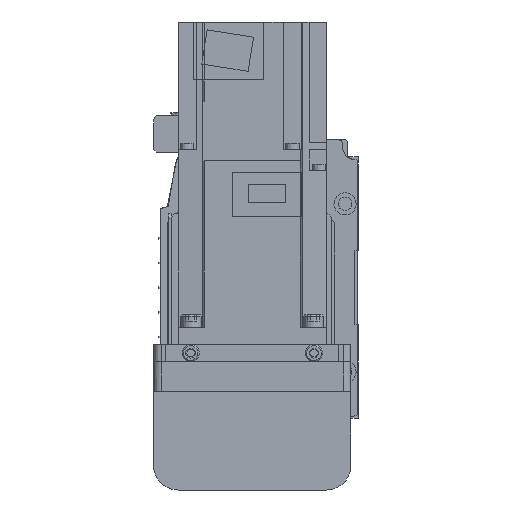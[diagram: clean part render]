
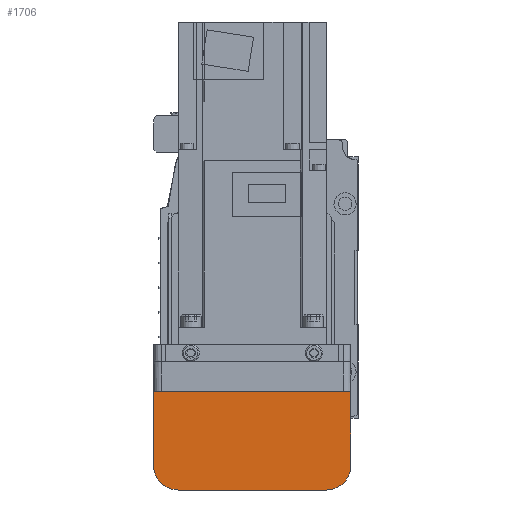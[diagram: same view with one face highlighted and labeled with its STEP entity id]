
A CAD part, left-side view. The second image highlights one B-rep face of the part: STEP entity #1706.
In plain terms, the highlighted planar face has unit normal (-1, 0, 0).
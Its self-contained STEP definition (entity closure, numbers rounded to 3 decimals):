
#1706 = ADVANCED_FACE( '', ( #3845 ), #3846, .F. );
#3845 = FACE_OUTER_BOUND( '', #6429, .T. );
#3846 = PLANE( '', #6430 );
#6429 = EDGE_LOOP( '', ( #11027, #11028, #11029, #11030, #11031, #11032 ) );
#6430 = AXIS2_PLACEMENT_3D( '', #11033, #11034, #11035 );
#11027 = ORIENTED_EDGE( '', *, *, #16109, .F. );
#11028 = ORIENTED_EDGE( '', *, *, #16110, .F. );
#11029 = ORIENTED_EDGE( '', *, *, #15699, .F. );
#11030 = ORIENTED_EDGE( '', *, *, #16111, .F. );
#11031 = ORIENTED_EDGE( '', *, *, #16112, .F. );
#11032 = ORIENTED_EDGE( '', *, *, #16113, .F. );
#11033 = CARTESIAN_POINT( '', ( -192., 37., 7. ) );
#11034 = DIRECTION( '', ( 1., 0., 0. ) );
#11035 = DIRECTION( '', ( 0., 0., -1. ) );
#15699 = EDGE_CURVE( '', #19151, #19153, #19154, .T. );
#16109 = EDGE_CURVE( '', #17194, #18901, #19748, .T. );
#16110 = EDGE_CURVE( '', #19153, #17194, #19749, .T. );
#16111 = EDGE_CURVE( '', #19750, #19151, #19751, .T. );
#16112 = EDGE_CURVE( '', #19752, #19750, #19753, .T. );
#16113 = EDGE_CURVE( '', #18901, #19752, #19754, .T. );
#17194 = VERTEX_POINT( '', #21073 );
#18901 = VERTEX_POINT( '', #23330 );
#19151 = VERTEX_POINT( '', #23656 );
#19153 = VERTEX_POINT( '', #23659 );
#19154 = CIRCLE( '', #23660, 10. );
#19748 = LINE( '', #24457, #24458 );
#19749 = LINE( '', #24459, #24460 );
#19750 = VERTEX_POINT( '', #24461 );
#19751 = LINE( '', #24462, #24463 );
#19752 = VERTEX_POINT( '', #24464 );
#19753 = CIRCLE( '', #24465, 10. );
#19754 = LINE( '', #24466, #24467 );
#21073 = CARTESIAN_POINT( '', ( -192., 40., -12.1 ) );
#23330 = CARTESIAN_POINT( '', ( -192., -40., -12.1 ) );
#23656 = CARTESIAN_POINT( '', ( -192., 30., -52. ) );
#23659 = CARTESIAN_POINT( '', ( -192., 40., -42. ) );
#23660 = AXIS2_PLACEMENT_3D( '', #27547, #27548, #27549 );
#24457 = CARTESIAN_POINT( '', ( -192., 50., -12.1 ) );
#24458 = VECTOR( '', #28032, 1000. );
#24459 = CARTESIAN_POINT( '', ( -192., 40., -42. ) );
#24460 = VECTOR( '', #28033, 1000. );
#24461 = CARTESIAN_POINT( '', ( -192., -30., -52. ) );
#24462 = CARTESIAN_POINT( '', ( -192., -30., -52. ) );
#24463 = VECTOR( '', #28034, 1000. );
#24464 = CARTESIAN_POINT( '', ( -192., -40., -42. ) );
#24465 = AXIS2_PLACEMENT_3D( '', #28035, #28036, #28037 );
#24466 = CARTESIAN_POINT( '', ( -192., -40., -12.1 ) );
#24467 = VECTOR( '', #28038, 1000. );
#27547 = CARTESIAN_POINT( '', ( -192., 30., -42. ) );
#27548 = DIRECTION( '', ( 1., 0., 0. ) );
#27549 = DIRECTION( '', ( 0., 0., -1. ) );
#28032 = DIRECTION( '', ( 0., -1., 0. ) );
#28033 = DIRECTION( '', ( 0., 0., 1. ) );
#28034 = DIRECTION( '', ( 0., 1., 0. ) );
#28035 = CARTESIAN_POINT( '', ( -192., -30., -42. ) );
#28036 = DIRECTION( '', ( 1., 0., 0. ) );
#28037 = DIRECTION( '', ( 0., 0., -1. ) );
#28038 = DIRECTION( '', ( 0., 0., -1. ) );
